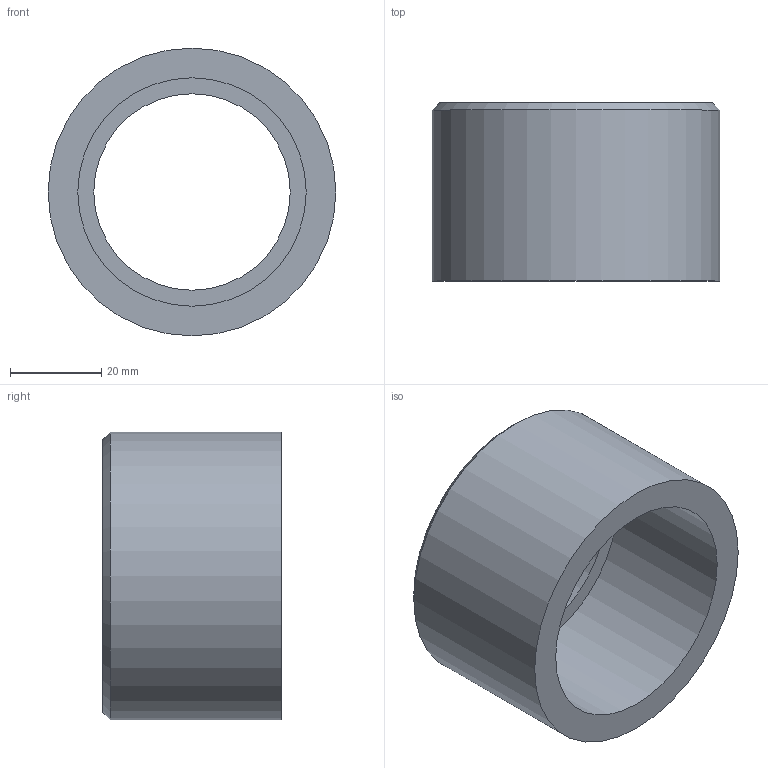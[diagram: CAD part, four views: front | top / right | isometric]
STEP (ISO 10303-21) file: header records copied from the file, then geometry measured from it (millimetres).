
FILE_DESCRIPTION(/* description */ ('PVC riduzione corta incollaggio metrica'),/* implementation_level */ '2;1');
FILE_NAME(/* name */ 'C:\Users\POLYPIPE\Desktop\DATASET INVENTOR\LIBRERIA EFFAST\RACCORDI 3DxWEB\RDR\3D_RDRRCD\3D_RDRRCD063F.stp',/* time_stamp */ '2018-01-19T15:31:36+01:00',/* author */ ('POLYPIPE'),/* organization */ ('Polypipe Italia s.r.l.'),/* preprocessor_version */ 'ST-DEVELOPER v16.1',/* originating_system */ 'Autodesk Inventor 2016',/* authorisation */ '');
FILE_SCHEMA (('CONFIG_CONTROL_DESIGN'));
Length unit declared in the file: millimetre
Products named in the file (1): 3D_RDRRCD
Bounding box: 63 x 39 x 63 mm (x, y, z)
Volume: 46327 mm3; surface area: 16395.8 mm2
Topology: 1 solids, 1 shells, 8 faces, 13 edges, 8 vertices
Faces by surface type: plane 3, cylinder 3, cone 2
Full cylindrical faces by diameter (mm): 43 x1, 50 x1, 63 x1
Entity records: 192 total; most frequent: DIRECTION 34, CARTESIAN_POINT 25, AXIS2_PLACEMENT_3D 17, EDGE_LOOP 16, ORIENTED_EDGE 16, FACE_BOUND 8, FACE_OUTER_BOUND 8, CIRCLE 8
